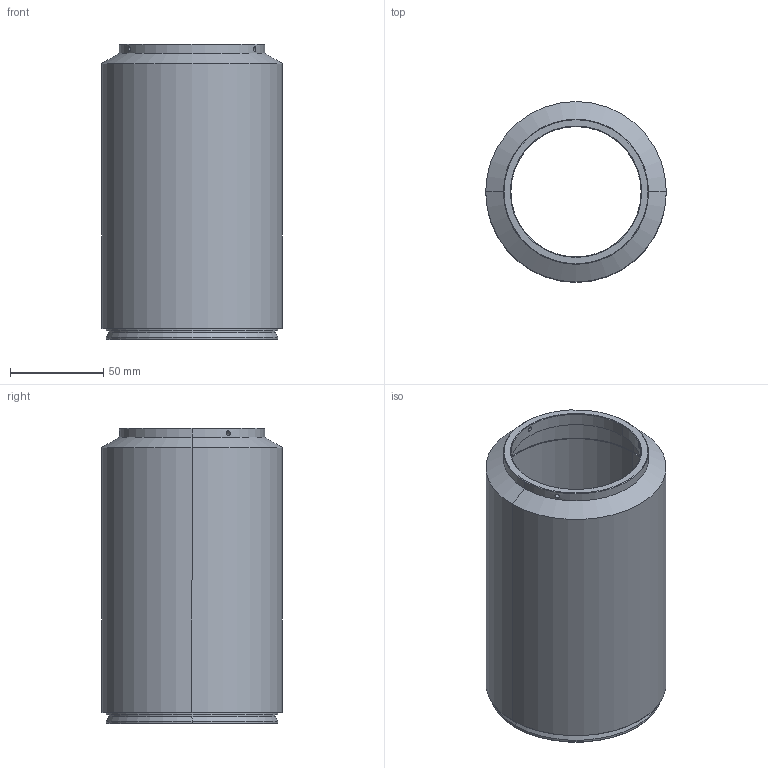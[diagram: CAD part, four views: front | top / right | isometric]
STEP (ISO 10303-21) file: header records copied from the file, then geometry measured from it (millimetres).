
FILE_DESCRIPTION (( 'STEP AP214' ), '1' );
FILE_NAME ('ML-11029-200-EXR-V70V92.STEP', '2026-04-17T08:47:28', ( '' ), ( '' ), 'SwSTEP 2.0', 'SolidWorks 2025', '' );
FILE_SCHEMA (( 'AUTOMOTIVE_DESIGN' ));
Length unit declared in the file: millimetre
Products named in the file (1): ML-11029-200-EXR-V70V92
Bounding box: 97 x 97 x 159 mm (x, y, z)
Volume: 242745.1 mm3; surface area: 95981.7 mm2
Topology: 1 solids, 1 shells, 43 faces, 92 edges, 54 vertices
Faces by surface type: cylinder 22, cone 16, plane 5
Entity records: 1395 total; most frequent: CARTESIAN_POINT 418, DIRECTION 210, ORIENTED_EDGE 184, EDGE_CURVE 92, AXIS2_PLACEMENT_3D 86, EDGE_LOOP 54, VERTEX_POINT 54, ADVANCED_FACE 43
